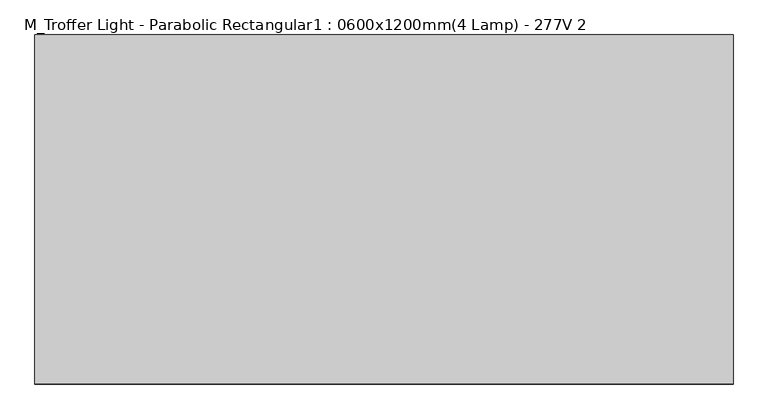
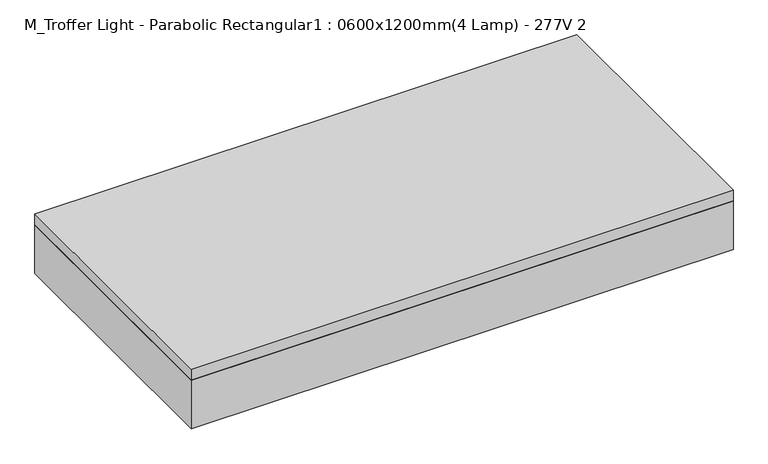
"""IFC4 building model written with IfcOpenShell, lengths in millimetres: light fixture geometry, M_Troffer Light - Parabolic Rectangular1 : 0600x1200mm(4 Lamp) - 277V 2."""

from ifc_helpers import new_model, si_unit, frame, origin, origin_with_axes, place, context, project, spatial, polyline, outline, extrude, source, transform, mapped, element, save


def m_troffer_light_parabolic_rectangular1_0600x1200mm_4_lamp_86473d4a(model_context):
    return source(origin(), model_context, "Body", "SweptSolid", [
        extrude(outline(polyline([(555.8964984, 215.1340679), (555.8964984, -334.0659321), (-593.3035016, -334.0659321), (-593.3035016, 215.1340679), (555.8964984, 215.1340679)])), frame((0.0, 0.0, 76.2), z_axis=(0.0, 0.0, 1.0), x_axis=(1.0, 0.0, 0.0)), (0.0, 0.0, 1.0), 6.35),
        extrude(outline(polyline([(565.4964984, 219.9340679), (565.4964984, -338.8659321), (-602.9035016, -338.8659321), (-602.9035016, 219.9340679), (565.4964984, 219.9340679)]), holes=[polyline([(-409.2285016, 35.7840679), (-409.2285016, 213.5840679), (-596.5535016, 213.5840679), (-596.5535016, 35.7840679), (-409.2285016, 35.7840679)]), polyline([(-409.2285016, -148.3659321), (-409.2285016, 29.4340679), (-596.5535016, 29.4340679), (-596.5535016, -148.3659321), (-409.2285016, -148.3659321)]), polyline([(-409.2285016, -154.7159321), (-596.5535016, -154.7159321), (-596.5535016, -332.5159321), (-409.2285016, -332.5159321), (-409.2285016, -154.7159321)]), polyline([(-215.5535016, 35.7840679), (-215.5535016, 213.5840679), (-402.8785016, 213.5840679), (-402.8785016, 35.7840679), (-215.5535016, 35.7840679)]), polyline([(-215.5535016, -148.3659321), (-215.5535016, 29.4340679), (-402.8785016, 29.4340679), (-402.8785016, -148.3659321), (-215.5535016, -148.3659321)]), polyline([(-215.5535016, -154.7159321), (-402.8785016, -154.7159321), (-402.8785016, -332.5159321), (-215.5535016, -332.5159321), (-215.5535016, -154.7159321)]), polyline([(-21.8785016, 35.7840679), (-21.8785016, 213.5840679), (-209.2035016, 213.5840679), (-209.2035016, 35.7840679), (-21.8785016, 35.7840679)]), polyline([(-21.8785016, -148.3659321), (-21.8785016, 29.4340679), (-209.2035016, 29.4340679), (-209.2035016, -148.3659321), (-21.8785016, -148.3659321)]), polyline([(-21.8785016, -154.7159321), (-209.2035016, -154.7159321), (-209.2035016, -332.5159321), (-21.8785016, -332.5159321), (-21.8785016, -154.7159321)]), polyline([(171.7964984, 35.7840679), (171.7964984, 213.5840679), (-15.5285016, 213.5840679), (-15.5285016, 35.7840679), (171.7964984, 35.7840679)]), polyline([(171.7964984, -148.3659321), (171.7964984, 29.4340679), (-15.5285016, 29.4340679), (-15.5285016, -148.3659321), (171.7964984, -148.3659321)]), polyline([(171.7964984, -154.7159321), (-15.5285016, -154.7159321), (-15.5285016, -332.5159321), (171.7964984, -332.5159321), (171.7964984, -154.7159321)]), polyline([(365.4714984, 35.7840679), (365.4714984, 213.5840679), (178.1464984, 213.5840679), (178.1464984, 35.7840679), (365.4714984, 35.7840679)]), polyline([(365.4714984, -148.3659321), (365.4714984, 29.4340679), (178.1464984, 29.4340679), (178.1464984, -148.3659321), (365.4714984, -148.3659321)]), polyline([(365.4714984, -154.7159321), (178.1464984, -154.7159321), (178.1464984, -332.5159321), (365.4714984, -332.5159321), (365.4714984, -154.7159321)]), polyline([(559.1464984, 35.7840679), (559.1464984, 213.5840679), (371.8214984, 213.5840679), (371.8214984, 35.7840679), (559.1464984, 35.7840679)]), polyline([(559.1464984, -148.3659321), (559.1464984, 29.4340679), (371.8214984, 29.4340679), (371.8214984, -148.3659321), (559.1464984, -148.3659321)]), polyline([(559.1464984, -154.7159321), (371.8214984, -154.7159321), (371.8214984, -332.5159321), (559.1464984, -332.5159321), (559.1464984, -154.7159321)])]), frame((0.0, 0.0, 3.175), z_axis=(0.0, 0.0, 1.0), x_axis=(1.0, 0.0, 0.0)), (0.0, 0.0, 1.0), 47.625),
        extrude(outline(polyline([(581.2964984, 240.5340679), (581.2964984, -359.4659321), (-618.7035016, -359.4659321), (-618.7035016, 240.5340679), (581.2964984, 240.5340679)]), holes=[polyline([(555.8964984, 215.1340679), (-593.3035016, 215.1340679), (-593.3035016, -334.0659321), (555.8964984, -334.0659321), (555.8964984, 215.1340679)])]), origin_with_axes(), (0.0, 0.0, 1.0), 114.3),
        extrude(outline(polyline([(581.2964984, 240.5340679), (581.2964984, -359.4659321), (-618.7035016, -359.4659321), (-618.7035016, 240.5340679), (581.2964984, 240.5340679)])), frame((0.0, 0.0, 114.3), z_axis=(0.0, 0.0, 1.0), x_axis=(1.0, 0.0, 0.0)), (0.0, 0.0, 1.0), 25.4),
    ])


if __name__ == "__main__":
    model = new_model("IFC4")
    model_context = context("Model", 3, world=origin())
    ifc_project = project(units=[si_unit("LENGTHUNIT", "METRE", prefix="MILLI")], contexts=[model_context])
    site = spatial("IfcSite", under=ifc_project)
    building = spatial("IfcBuilding", under=site)
    placement = place(None, origin())
    m_troffer_light_parabolic_rectangular1_0600x1200mm_4_lamp_shape = m_troffer_light_parabolic_rectangular1_0600x1200mm_4_lamp_86473d4a(model_context)
    element("IfcLightFixture", 1, ObjectType="M_Troffer Light - Parabolic Rectangular1 : 0600x1200mm(4 Lamp) - 277V 2", at=placement, inside=building, context=model_context, shape_type="MappedRepresentation", body=[
        mapped(m_troffer_light_parabolic_rectangular1_0600x1200mm_4_lamp_shape, transform((0.0, 0.0, 0.0), x_axis=(1.0, 0.0, 0.0), y_axis=(0.0, 1.0, 0.0), z_axis=(0.0, 0.0, 1.0))),
    ])
    save(model, "model.ifc")
